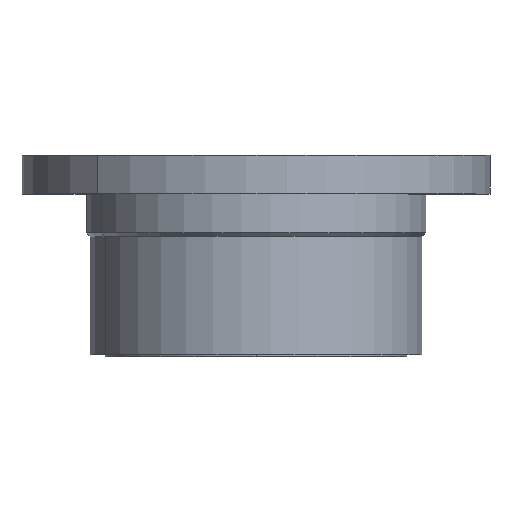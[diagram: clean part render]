
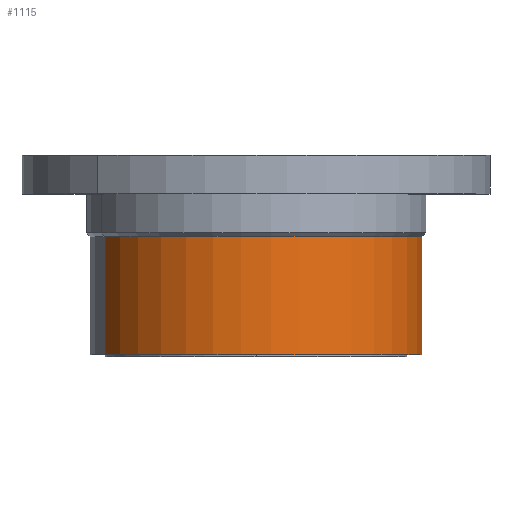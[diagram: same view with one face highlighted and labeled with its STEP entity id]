
A CAD part, top view. The second image highlights one B-rep face of the part: STEP entity #1115.
In plain terms, the highlighted cylindrical face has radius 43 mm (diameter 86 mm), a partial arc.
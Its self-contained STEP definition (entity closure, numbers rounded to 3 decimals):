
#319 = CIRCLE ( 'NONE', #2401, 43. ) ;
#490 = CARTESIAN_POINT ( 'NONE',  ( 0., -42.5, 0. ) ) ;
#570 = CARTESIAN_POINT ( 'NONE',  ( -38.971, -12., 18.173 ) ) ;
#664 = DIRECTION ( 'NONE',  ( 0., -1., 0. ) ) ;
#819 = ORIENTED_EDGE ( 'NONE', *, *, #2711, .T. ) ;
#962 = LINE ( 'NONE', #7084, #6366 ) ;
#1014 = DIRECTION ( 'NONE',  ( 0., 1., 0. ) ) ;
#1042 = VERTEX_POINT ( 'NONE', #2396 ) ;
#1096 = CIRCLE ( 'NONE', #4690, 43. ) ;
#1115 = ADVANCED_FACE ( 'NONE', ( #7793 ), #3214, .T. ) ;
#1478 = CARTESIAN_POINT ( 'NONE',  ( 38.971, -12., -18.173 ) ) ;
#1751 = EDGE_CURVE ( 'NONE', #1042, #2470, #1805, .T. ) ;
#1805 = LINE ( 'NONE', #7616, #4070 ) ;
#2396 = CARTESIAN_POINT ( 'NONE',  ( 38.971, -42.5, -18.173 ) ) ;
#2401 = AXIS2_PLACEMENT_3D ( 'NONE', #490, #5782, #7088 ) ;
#2436 = CARTESIAN_POINT ( 'NONE',  ( -38.971, -42.5, 18.173 ) ) ;
#2470 = VERTEX_POINT ( 'NONE', #1478 ) ;
#2525 = DIRECTION ( 'NONE',  ( -0.906, 0., 0.423 ) ) ;
#2711 = EDGE_CURVE ( 'NONE', #6826, #1042, #319, .T. ) ;
#2788 = ORIENTED_EDGE ( 'NONE', *, *, #1751, .T. ) ;
#3214 = CYLINDRICAL_SURFACE ( 'NONE', #6372, 43. ) ;
#3594 = DIRECTION ( 'NONE',  ( 0., 1., 0. ) ) ;
#3875 = DIRECTION ( 'NONE',  ( 0.906, 0., -0.423 ) ) ;
#4070 = VECTOR ( 'NONE', #1014, 1000. ) ;
#4570 = CARTESIAN_POINT ( 'NONE',  ( 0., -12., 0. ) ) ;
#4690 = AXIS2_PLACEMENT_3D ( 'NONE', #4570, #664, #3875 ) ;
#4737 = EDGE_LOOP ( 'NONE', ( #819, #2788, #6795, #6558 ) ) ;
#4769 = VERTEX_POINT ( 'NONE', #570 ) ;
#5782 = DIRECTION ( 'NONE',  ( 0., 1., 0. ) ) ;
#6348 = DIRECTION ( 'NONE',  ( 0., 1., 0. ) ) ;
#6366 = VECTOR ( 'NONE', #3594, 1000. ) ;
#6372 = AXIS2_PLACEMENT_3D ( 'NONE', #7703, #6348, #2525 ) ;
#6558 = ORIENTED_EDGE ( 'NONE', *, *, #6871, .F. ) ;
#6572 = EDGE_CURVE ( 'NONE', #2470, #4769, #1096, .T. ) ;
#6795 = ORIENTED_EDGE ( 'NONE', *, *, #6572, .T. ) ;
#6826 = VERTEX_POINT ( 'NONE', #2436 ) ;
#6871 = EDGE_CURVE ( 'NONE', #6826, #4769, #962, .T. ) ;
#7084 = CARTESIAN_POINT ( 'NONE',  ( -38.971, 8.922, 18.173 ) ) ;
#7088 = DIRECTION ( 'NONE',  ( -0.906, 0., 0.423 ) ) ;
#7616 = CARTESIAN_POINT ( 'NONE',  ( 38.971, 8.922, -18.173 ) ) ;
#7703 = CARTESIAN_POINT ( 'NONE',  ( 0., 8.922, 0. ) ) ;
#7793 = FACE_OUTER_BOUND ( 'NONE', #4737, .T. ) ;
